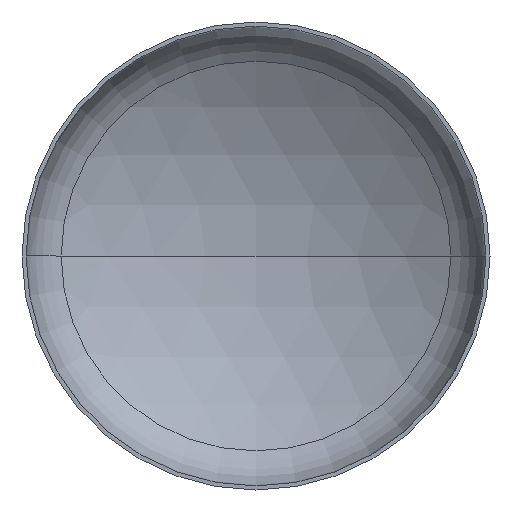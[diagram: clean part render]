
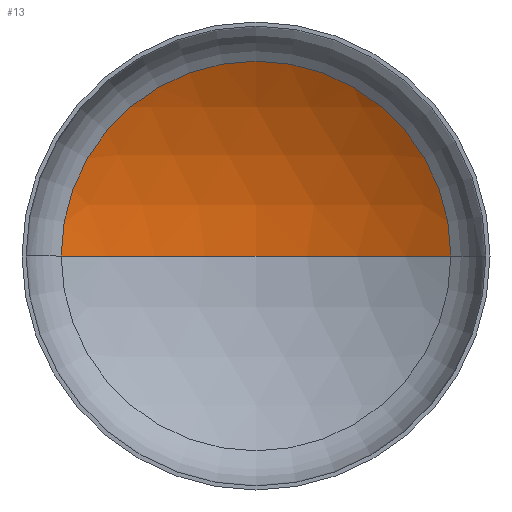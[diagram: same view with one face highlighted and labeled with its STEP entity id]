
A CAD part, front view. The second image highlights one B-rep face of the part: STEP entity #13.
In plain terms, the highlighted spherical face has radius 640 mm.
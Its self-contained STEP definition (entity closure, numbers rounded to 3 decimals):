
#7 = AXIS2_PLACEMENT_3D ( 'NONE', #317, #167, #292 ) ;
#13 = ADVANCED_FACE ( 'NONE', ( #151 ), #266, .F. ) ;
#15 = EDGE_LOOP ( 'NONE', ( #112, #52, #42 ) ) ;
#26 = VERTEX_POINT ( 'NONE', #367 ) ;
#42 = ORIENTED_EDGE ( 'NONE', *, *, #341, .T. ) ;
#52 = ORIENTED_EDGE ( 'NONE', *, *, #382, .T. ) ;
#59 = AXIS2_PLACEMENT_3D ( 'NONE', #269, #235, #237 ) ;
#89 = DIRECTION ( 'NONE',  ( -1., 0., 0. ) ) ;
#110 = CIRCLE ( 'NONE', #278, 640. ) ;
#112 = ORIENTED_EDGE ( 'NONE', *, *, #379, .F. ) ;
#114 = VERTEX_POINT ( 'NONE', #289 ) ;
#142 = VERTEX_POINT ( 'NONE', #211 ) ;
#151 = FACE_OUTER_BOUND ( 'NONE', #15, .T. ) ;
#152 = CARTESIAN_POINT ( 'NONE',  ( 0., -414.774, 0. ) ) ;
#167 = DIRECTION ( 'NONE',  ( 0., -1., 0. ) ) ;
#211 = CARTESIAN_POINT ( 'NONE',  ( -333.049, 131.741, 0. ) ) ;
#226 = CARTESIAN_POINT ( 'NONE',  ( 0., -414.774, 0. ) ) ;
#233 = AXIS2_PLACEMENT_3D ( 'NONE', #152, #248, #251 ) ;
#235 = DIRECTION ( 'NONE',  ( 0., 0., -1. ) ) ;
#237 = DIRECTION ( 'NONE',  ( -1., 0., 0. ) ) ;
#248 = DIRECTION ( 'NONE',  ( 0., 0., 1. ) ) ;
#251 = DIRECTION ( 'NONE',  ( 1., 0., 0. ) ) ;
#266 = SPHERICAL_SURFACE ( 'NONE', #59, 640. ) ;
#269 = CARTESIAN_POINT ( 'NONE',  ( 0., -414.774, 0. ) ) ;
#278 = AXIS2_PLACEMENT_3D ( 'NONE', #226, #394, #89 ) ;
#289 = CARTESIAN_POINT ( 'NONE',  ( 0., 225.226, 0. ) ) ;
#292 = DIRECTION ( 'NONE',  ( 1., 0., 0. ) ) ;
#317 = CARTESIAN_POINT ( 'NONE',  ( 0., 131.741, 0. ) ) ;
#337 = CIRCLE ( 'NONE', #7, 333.049 ) ;
#341 = EDGE_CURVE ( 'NONE', #26, #142, #337, .T. ) ;
#367 = CARTESIAN_POINT ( 'NONE',  ( 333.049, 131.741, 0. ) ) ;
#379 = EDGE_CURVE ( 'NONE', #114, #142, #385, .T. ) ;
#382 = EDGE_CURVE ( 'NONE', #114, #26, #110, .T. ) ;
#385 = CIRCLE ( 'NONE', #233, 640. ) ;
#394 = DIRECTION ( 'NONE',  ( 0., 0., -1. ) ) ;
